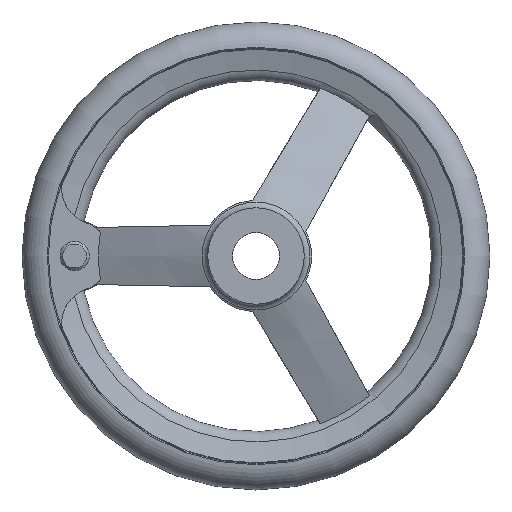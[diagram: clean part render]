
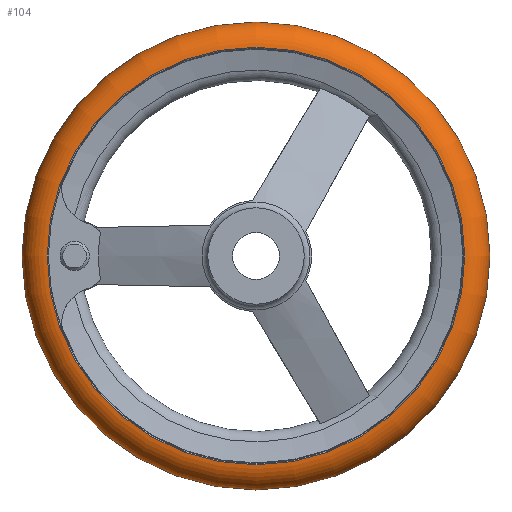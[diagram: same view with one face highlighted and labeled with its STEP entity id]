
A CAD part, left-side view. The second image highlights one B-rep face of the part: STEP entity #104.
In plain terms, the highlighted toroidal (fillet/blend) face has major radius 70.992 mm and minor radius 9.008 mm.
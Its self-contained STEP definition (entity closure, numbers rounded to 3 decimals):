
#104 = ADVANCED_FACE( '', ( #194, #195, #196 ), #197, .T. );
#194 = FACE_BOUND( '', #339, .T. );
#195 = FACE_OUTER_BOUND( '', #340, .T. );
#196 = FACE_OUTER_BOUND( '', #341, .T. );
#197 = TOROIDAL_SURFACE( '', #342, 70.992, 9.008 );
#339 = VERTEX_LOOP( '', #603 );
#340 = EDGE_LOOP( '', ( #604 ) );
#341 = EDGE_LOOP( '', ( #605 ) );
#342 = AXIS2_PLACEMENT_3D( '', #606, #607, #608 );
#603 = VERTEX_POINT( '', #764 );
#604 = ORIENTED_EDGE( '', *, *, #763, .T. );
#605 = ORIENTED_EDGE( '', *, *, #757, .F. );
#606 = CARTESIAN_POINT( '', ( 31., 0., 0. ) );
#607 = DIRECTION( '', ( 1., 0., 0. ) );
#608 = DIRECTION( '', ( 0., 1., 0. ) );
#757 = EDGE_CURVE( '', #903, #903, #904, .T. );
#763 = EDGE_CURVE( '', #914, #914, #915, .T. );
#764 = CARTESIAN_POINT( '', ( 31., 80., 0. ) );
#903 = VERTEX_POINT( '', #1441 );
#904 = CIRCLE( '', #1442, 71.375 );
#914 = VERTEX_POINT( '', #1452 );
#915 = CIRCLE( '', #1453, 71.375 );
#1441 = CARTESIAN_POINT( '', ( 40., 71.375, 0. ) );
#1442 = AXIS2_PLACEMENT_3D( '', #1578, #1579, #1580 );
#1452 = CARTESIAN_POINT( '', ( 22., 71.375, 0. ) );
#1453 = AXIS2_PLACEMENT_3D( '', #1596, #1597, #1598 );
#1578 = CARTESIAN_POINT( '', ( 40., 0., 0. ) );
#1579 = DIRECTION( '', ( 1., 0., 0. ) );
#1580 = DIRECTION( '', ( 0., 1., 0. ) );
#1596 = CARTESIAN_POINT( '', ( 22., 0., 0. ) );
#1597 = DIRECTION( '', ( 1., 0., 0. ) );
#1598 = DIRECTION( '', ( 0., 1., 0. ) );
